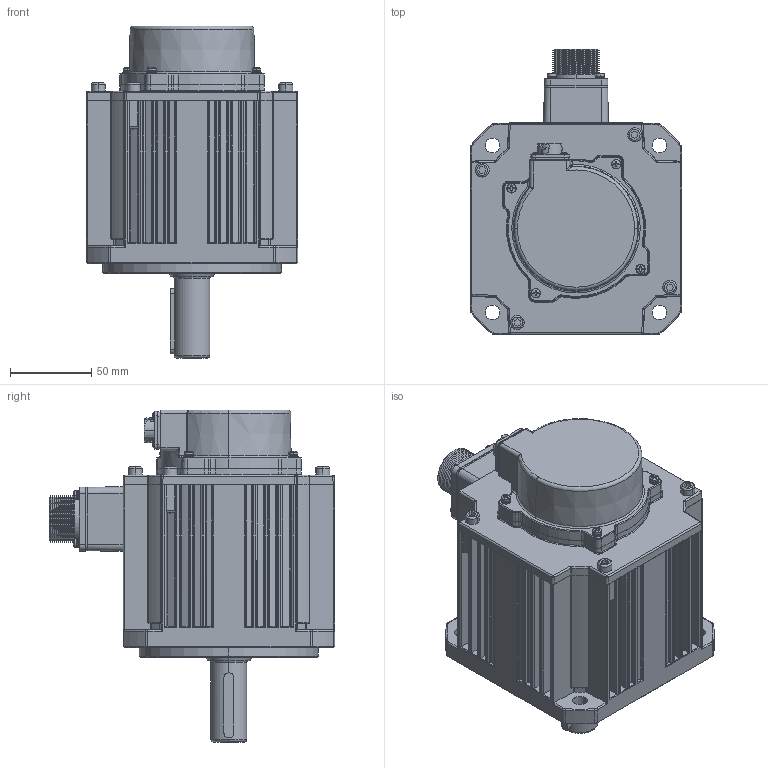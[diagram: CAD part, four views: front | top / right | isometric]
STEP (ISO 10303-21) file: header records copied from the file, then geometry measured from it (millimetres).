
FILE_DESCRIPTION (( 'STEP AP203' ), '1' );
FILE_NAME ('G3-130-8.28NM标准电机三维图.STEP', '2022-12-05T11:25:05', ( '微软用户' ), ( '微软中国' ), 'SwSTEP 2.0', 'SolidWorks 2016', '' );
FILE_SCHEMA (( 'CONFIG_CONTROL_DESIGN' ));
Length unit declared in the file: millimetre
Products named in the file (1): G3-130-8.28NM标准电机三维图
Bounding box: 130 x 175.3 x 204 mm (x, y, z)
Volume: 608975.1 mm3; surface area: 281162.9 mm2
Topology: 26 solids, 26 shells, 3449 faces, 8825 edges, 5539 vertices
Faces by surface type: plane 1244, cylinder 855, bspline 536, cone 493, torus 226, sphere 95
Entity records: 123621 total; most frequent: CARTESIAN_POINT 43565, ORIENTED_EDGE 17414, DIRECTION 15723, EDGE_CURVE 8707, AXIS2_PLACEMENT_3D 5661, VERTEX_POINT 5507, VECTOR 4401, LINE 4401
